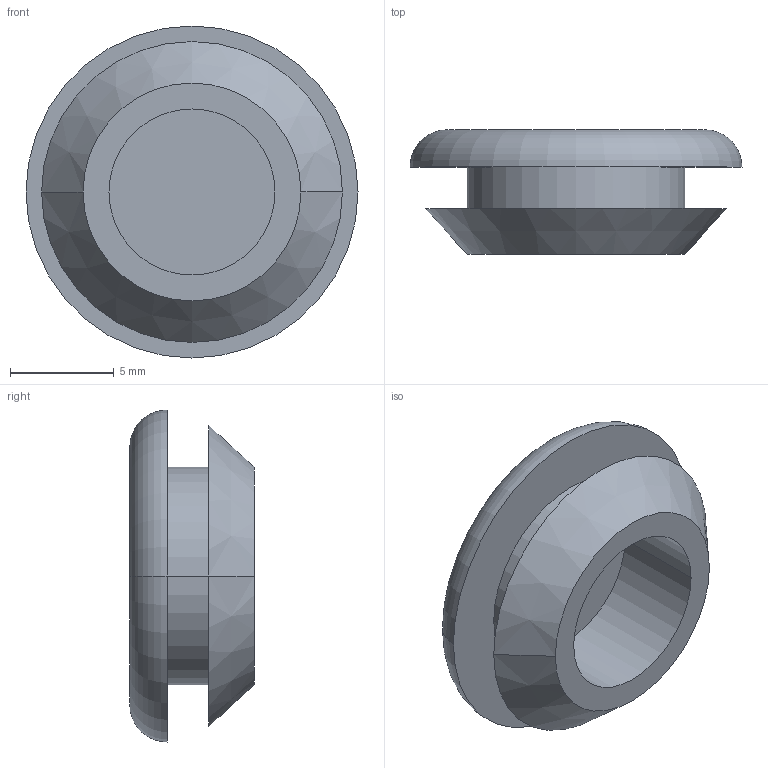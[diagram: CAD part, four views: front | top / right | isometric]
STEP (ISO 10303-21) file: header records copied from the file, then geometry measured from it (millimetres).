
FILE_DESCRIPTION (( 'STEP AP203' ), '1' );
FILE_NAME ('C030151.STEP', '2017-03-22T12:34:46', ( 'Localadmin' ), ( 'Microsoft' ), 'SwSTEP 2.0', 'SolidWorks 2016', '' );
FILE_SCHEMA (( 'CONFIG_CONTROL_DESIGN' ));
Length unit declared in the file: millimetre
Products named in the file (1): C030151
Bounding box: 16 x 6 x 16 mm (x, y, z)
Volume: 548 mm3; surface area: 826.7 mm2
Topology: 1 solids, 1 shells, 13 faces, 24 edges, 16 vertices
Faces by surface type: plane 5, cylinder 4, torus 2, cone 2
Entity records: 413 total; most frequent: DIRECTION 70, CARTESIAN_POINT 54, ORIENTED_EDGE 48, AXIS2_PLACEMENT_3D 32, EDGE_CURVE 24, CIRCLE 18, EDGE_LOOP 16, VERTEX_POINT 16
